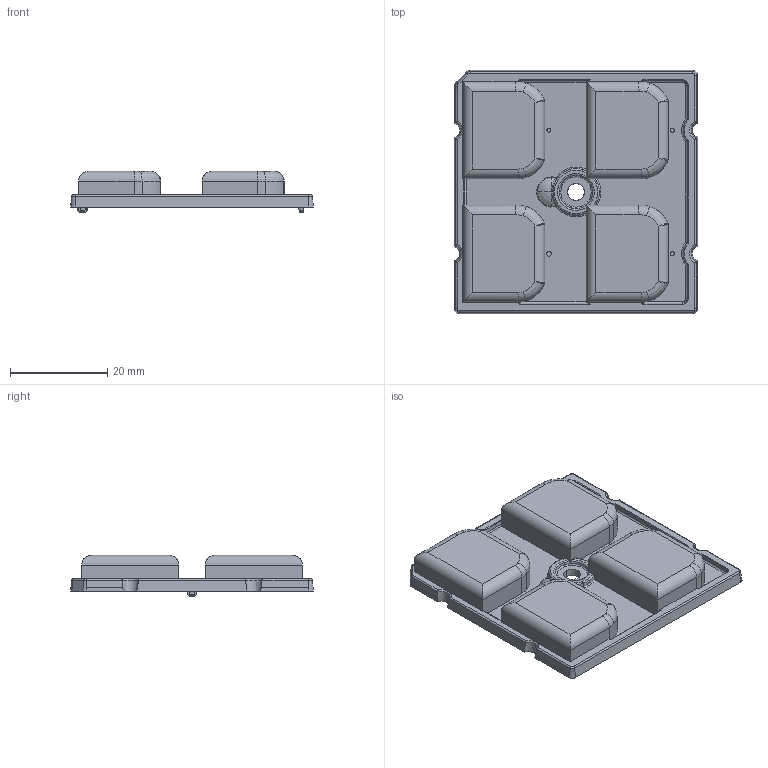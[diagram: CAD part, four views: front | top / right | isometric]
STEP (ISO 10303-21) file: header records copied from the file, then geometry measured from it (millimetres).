
FILE_DESCRIPTION(('CATIA V5 STEP Exchange'),'2;1');
FILE_NAME('C:\Users\joni.palm\Desktop\pdf_exports\Angelette\MECHANICALMODEL_C15292_STRADA-2X2-T2-C 20160516.stp','2016-06-01T13:06:53+00:00',('none'),('none'),'CATIA Version 5-6 Release 2013 SP4','CATIA V5 STEP AP203','none');
FILE_SCHEMA(('CONFIG_CONTROL_DESIGN'));
Length unit declared in the file: millimetre
Products named in the file (1): Part2
Bounding box: 50 x 50 x 8.49 mm (x, y, z)
Volume: 9568.7 mm3; surface area: 7405.8 mm2
Topology: 1 solids, 1 shells, 470 faces, 1224 edges, 758 vertices
Faces by surface type: plane 143, cylinder 117, bspline 104, torus 33, cone 33, extrusion 22, sphere 10, revolution 8
Entity records: 23395 total; most frequent: CARTESIAN_POINT 13615, ORIENTED_EDGE 2412, DIRECTION 1268, EDGE_CURVE 1206, VERTEX_POINT 758, AXIS2_PLACEMENT_3D 537, B_SPLINE_CURVE_WITH_KNOTS 523, EDGE_LOOP 492
